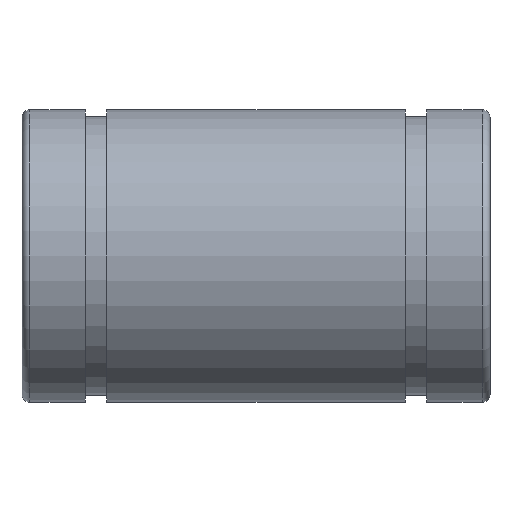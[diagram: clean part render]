
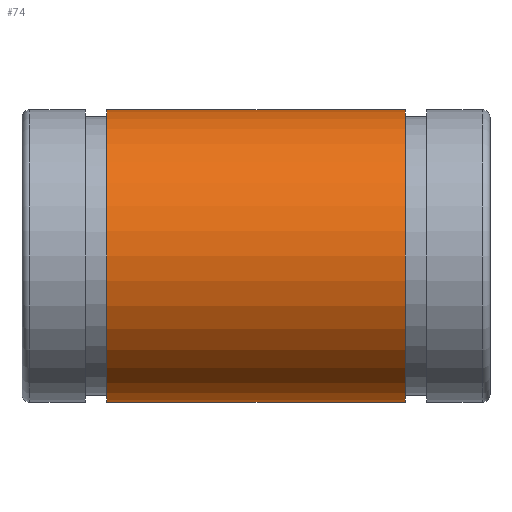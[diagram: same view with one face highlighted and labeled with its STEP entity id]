
A CAD part, front view. The second image highlights one B-rep face of the part: STEP entity #74.
In plain terms, the highlighted cylindrical face has radius 7.5 mm (diameter 15 mm), a full revolution.
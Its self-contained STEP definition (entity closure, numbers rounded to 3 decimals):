
#74 = ADVANCED_FACE( '', ( #159, #160 ), #161, .T. );
#159 = FACE_OUTER_BOUND( '', #238, .T. );
#160 = FACE_OUTER_BOUND( '', #239, .T. );
#161 = CYLINDRICAL_SURFACE( '', #240, 7.5 );
#238 = EDGE_LOOP( '', ( #343 ) );
#239 = EDGE_LOOP( '', ( #344 ) );
#240 = AXIS2_PLACEMENT_3D( '', #345, #346, #347 );
#343 = ORIENTED_EDGE( '', *, *, #372, .F. );
#344 = ORIENTED_EDGE( '', *, *, #376, .T. );
#345 = CARTESIAN_POINT( '', ( 12., 0., 0. ) );
#346 = DIRECTION( '', ( -1., 0., 0. ) );
#347 = DIRECTION( '', ( 0., 1., 0. ) );
#372 = EDGE_CURVE( '', #419, #419, #420, .T. );
#376 = EDGE_CURVE( '', #425, #425, #426, .T. );
#419 = VERTEX_POINT( '', #473 );
#420 = CIRCLE( '', #474, 7.5 );
#425 = VERTEX_POINT( '', #479 );
#426 = CIRCLE( '', #480, 7.5 );
#473 = CARTESIAN_POINT( '', ( 4.35, 7.5, 0. ) );
#474 = AXIS2_PLACEMENT_3D( '', #531, #532, #533 );
#479 = CARTESIAN_POINT( '', ( 19.65, 7.5, 0. ) );
#480 = AXIS2_PLACEMENT_3D( '', #537, #538, #539 );
#531 = CARTESIAN_POINT( '', ( 4.35, 0., 0. ) );
#532 = DIRECTION( '', ( -1., 0., 0. ) );
#533 = DIRECTION( '', ( 0., 1., 0. ) );
#537 = CARTESIAN_POINT( '', ( 19.65, 0., 0. ) );
#538 = DIRECTION( '', ( -1., 0., 0. ) );
#539 = DIRECTION( '', ( 0., 1., 0. ) );
